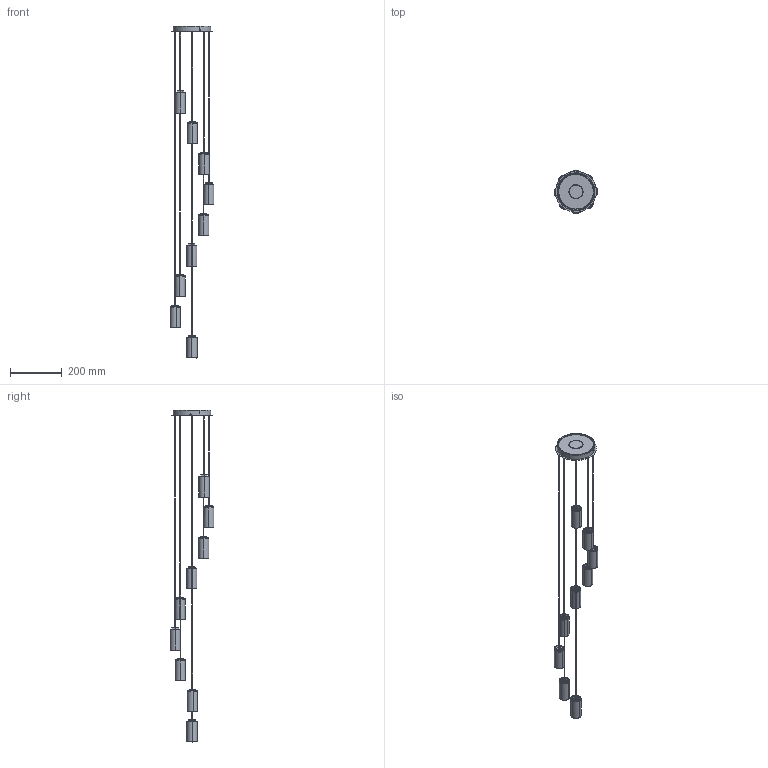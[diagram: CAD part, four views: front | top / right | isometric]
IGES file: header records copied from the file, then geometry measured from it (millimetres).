
Global section: file name: Cirio Cascada9 - tirabuzon; native system: Unknown; preprocessor: BodyObjectToATFToIges; author: Autodesk 3ds Max; organization: Autodesk; date: 20180131.094417; units: centimetre
Bounding box: 169.66 x 169.66 x 1281.38 mm (x, y, z)
Volume: 161225.4 mm3; surface area: 333258.1 mm2
Topology: 1 solids, 1 shells, 3430 faces, 9273 edges, 6101 vertices
Faces by surface type: bspline 3430
